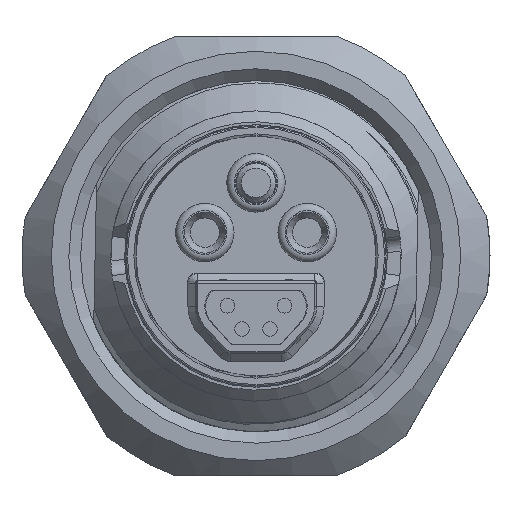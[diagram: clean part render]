
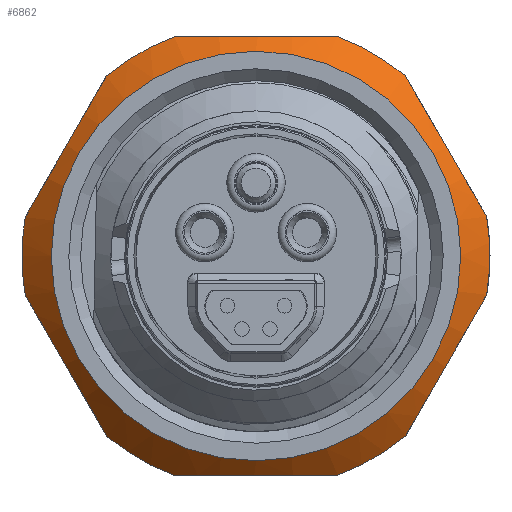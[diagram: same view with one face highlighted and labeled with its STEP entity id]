
A CAD part, front view. The second image highlights one B-rep face of the part: STEP entity #6862.
In plain terms, the highlighted conical face has half-angle 45 degrees and reference radius 15 mm.
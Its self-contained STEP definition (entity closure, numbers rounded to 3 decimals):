
#357=(
BOUNDED_CURVE()
B_SPLINE_CURVE(2,(#19568,#19569,#19570),.UNSPECIFIED.,.F.,.F.)
B_SPLINE_CURVE_WITH_KNOTS((3,3),(0.,1.131),.UNSPECIFIED.)
CURVE()
GEOMETRIC_REPRESENTATION_ITEM()
RATIONAL_B_SPLINE_CURVE((1.,1.067,1.))
REPRESENTATION_ITEM('')
);
#358=(
BOUNDED_CURVE()
B_SPLINE_CURVE(2,(#19608,#19609,#19610),.UNSPECIFIED.,.F.,.F.)
B_SPLINE_CURVE_WITH_KNOTS((3,3),(0.,1.131),.UNSPECIFIED.)
CURVE()
GEOMETRIC_REPRESENTATION_ITEM()
RATIONAL_B_SPLINE_CURVE((1.,1.067,1.))
REPRESENTATION_ITEM('')
);
#359=(
BOUNDED_CURVE()
B_SPLINE_CURVE(2,(#19650,#19651,#19652),.UNSPECIFIED.,.F.,.F.)
B_SPLINE_CURVE_WITH_KNOTS((3,3),(0.,1.131),.UNSPECIFIED.)
CURVE()
GEOMETRIC_REPRESENTATION_ITEM()
RATIONAL_B_SPLINE_CURVE((1.,1.067,1.))
REPRESENTATION_ITEM('')
);
#360=(
BOUNDED_CURVE()
B_SPLINE_CURVE(2,(#19798,#19799,#19800),.UNSPECIFIED.,.F.,.F.)
B_SPLINE_CURVE_WITH_KNOTS((3,3),(0.,1.131),.UNSPECIFIED.)
CURVE()
GEOMETRIC_REPRESENTATION_ITEM()
RATIONAL_B_SPLINE_CURVE((1.,1.067,1.))
REPRESENTATION_ITEM('')
);
#361=(
BOUNDED_CURVE()
B_SPLINE_CURVE(2,(#19808,#19809,#19810),.UNSPECIFIED.,.F.,.F.)
B_SPLINE_CURVE_WITH_KNOTS((3,3),(0.,1.131),.UNSPECIFIED.)
CURVE()
GEOMETRIC_REPRESENTATION_ITEM()
RATIONAL_B_SPLINE_CURVE((1.,1.067,1.))
REPRESENTATION_ITEM('')
);
#362=(
BOUNDED_CURVE()
B_SPLINE_CURVE(2,(#19824,#19825,#19826),.UNSPECIFIED.,.F.,.F.)
B_SPLINE_CURVE_WITH_KNOTS((3,3),(0.,1.131),.UNSPECIFIED.)
CURVE()
GEOMETRIC_REPRESENTATION_ITEM()
RATIONAL_B_SPLINE_CURVE((1.,1.067,1.))
REPRESENTATION_ITEM('')
);
#400=CONICAL_SURFACE('',#7401,15.,0.785);
#808=FACE_OUTER_BOUND('',#1192,.T.);
#1192=EDGE_LOOP('',(#5414,#5415,#5416,#5417,#5418,#5419,#5420,#5421,#5422,
#5423,#5424,#5425,#5426,#5427,#5428,#5429,#5430));
#1533=LINE('',#19823,#1928);
#1928=VECTOR('',#8580,15.);
#2306=CIRCLE('',#7324,14.);
#2307=CIRCLE('',#7325,14.);
#2339=CIRCLE('',#7387,16.);
#2340=CIRCLE('',#7388,16.);
#2341=CIRCLE('',#7391,16.);
#2342=CIRCLE('',#7394,16.);
#2343=CIRCLE('',#7396,16.);
#2344=CIRCLE('',#7398,16.);
#2345=CIRCLE('',#7400,16.);
#2846=VERTEX_POINT('',#19467);
#2847=VERTEX_POINT('',#19468);
#2871=VERTEX_POINT('',#19565);
#2872=VERTEX_POINT('',#19567);
#2879=VERTEX_POINT('',#19605);
#2880=VERTEX_POINT('',#19607);
#2888=VERTEX_POINT('',#19647);
#2889=VERTEX_POINT('',#19649);
#2909=VERTEX_POINT('',#19789);
#2910=VERTEX_POINT('',#19791);
#2911=VERTEX_POINT('',#19793);
#2912=VERTEX_POINT('',#19797);
#2913=VERTEX_POINT('',#19803);
#2914=VERTEX_POINT('',#19807);
#2915=VERTEX_POINT('',#19815);
#3682=EDGE_CURVE('',#2846,#2847,#2306,.T.);
#3683=EDGE_CURVE('',#2847,#2846,#2307,.T.);
#3715=EDGE_CURVE('',#2871,#2872,#357,.T.);
#3725=EDGE_CURVE('',#2879,#2880,#358,.T.);
#3736=EDGE_CURVE('',#2888,#2889,#359,.T.);
#3774=EDGE_CURVE('',#2909,#2910,#2339,.T.);
#3775=EDGE_CURVE('',#2910,#2911,#2340,.T.);
#3777=EDGE_CURVE('',#2911,#2912,#360,.T.);
#3779=EDGE_CURVE('',#2912,#2913,#2341,.T.);
#3781=EDGE_CURVE('',#2913,#2914,#361,.T.);
#3783=EDGE_CURVE('',#2914,#2879,#2342,.T.);
#3784=EDGE_CURVE('',#2872,#2915,#2343,.T.);
#3786=EDGE_CURVE('',#2880,#2888,#2344,.T.);
#3787=EDGE_CURVE('',#2889,#2871,#2345,.T.);
#3788=EDGE_CURVE('',#2910,#2847,#1533,.T.);
#3789=EDGE_CURVE('',#2915,#2909,#362,.T.);
#5414=ORIENTED_EDGE('',*,*,#3715,.F.);
#5415=ORIENTED_EDGE('',*,*,#3787,.F.);
#5416=ORIENTED_EDGE('',*,*,#3736,.F.);
#5417=ORIENTED_EDGE('',*,*,#3786,.F.);
#5418=ORIENTED_EDGE('',*,*,#3725,.F.);
#5419=ORIENTED_EDGE('',*,*,#3783,.F.);
#5420=ORIENTED_EDGE('',*,*,#3781,.F.);
#5421=ORIENTED_EDGE('',*,*,#3779,.F.);
#5422=ORIENTED_EDGE('',*,*,#3777,.F.);
#5423=ORIENTED_EDGE('',*,*,#3775,.F.);
#5424=ORIENTED_EDGE('',*,*,#3788,.T.);
#5425=ORIENTED_EDGE('',*,*,#3682,.F.);
#5426=ORIENTED_EDGE('',*,*,#3683,.F.);
#5427=ORIENTED_EDGE('',*,*,#3788,.F.);
#5428=ORIENTED_EDGE('',*,*,#3774,.F.);
#5429=ORIENTED_EDGE('',*,*,#3789,.F.);
#5430=ORIENTED_EDGE('',*,*,#3784,.F.);
#6862=ADVANCED_FACE('',(#808),#400,.T.);
#7324=AXIS2_PLACEMENT_3D('',#19469,#8387,#8388);
#7325=AXIS2_PLACEMENT_3D('',#19470,#8389,#8390);
#7387=AXIS2_PLACEMENT_3D('',#19792,#8545,#8546);
#7388=AXIS2_PLACEMENT_3D('',#19794,#8547,#8548);
#7391=AXIS2_PLACEMENT_3D('',#19804,#8555,#8556);
#7394=AXIS2_PLACEMENT_3D('',#19813,#8563,#8564);
#7396=AXIS2_PLACEMENT_3D('',#19816,#8567,#8568);
#7398=AXIS2_PLACEMENT_3D('',#19819,#8572,#8573);
#7400=AXIS2_PLACEMENT_3D('',#19821,#8576,#8577);
#7401=AXIS2_PLACEMENT_3D('',#19822,#8578,#8579);
#8387=DIRECTION('center_axis',(0.,-1.,0.));
#8388=DIRECTION('ref_axis',(1.,0.,0.001));
#8389=DIRECTION('center_axis',(0.,-1.,0.));
#8390=DIRECTION('ref_axis',(1.,0.,0.001));
#8545=DIRECTION('center_axis',(0.,1.,0.));
#8546=DIRECTION('ref_axis',(0.001,0.,-1.));
#8547=DIRECTION('center_axis',(0.,1.,0.));
#8548=DIRECTION('ref_axis',(0.001,0.,-1.));
#8555=DIRECTION('center_axis',(0.,1.,0.));
#8556=DIRECTION('ref_axis',(0.001,0.,-1.));
#8563=DIRECTION('center_axis',(0.,1.,0.));
#8564=DIRECTION('ref_axis',(0.001,0.,-1.));
#8567=DIRECTION('center_axis',(0.,1.,0.));
#8568=DIRECTION('ref_axis',(0.001,0.,-1.));
#8572=DIRECTION('center_axis',(0.,1.,0.));
#8573=DIRECTION('ref_axis',(0.001,0.,-1.));
#8576=DIRECTION('center_axis',(0.,1.,0.));
#8577=DIRECTION('ref_axis',(0.001,0.,-1.));
#8578=DIRECTION('center_axis',(0.,1.,0.));
#8579=DIRECTION('ref_axis',(1.,0.,0.001));
#8580=DIRECTION('',(0.707,-0.707,0.001));
#19467=CARTESIAN_POINT('',(-2.604,-6.851,0.018));
#19468=CARTESIAN_POINT('',(-30.604,-6.851,-0.018));
#19469=CARTESIAN_POINT('Origin',(-16.604,-6.851,0.));
#19470=CARTESIAN_POINT('Origin',(-16.604,-6.851,0.));
#19565=CARTESIAN_POINT('',(-11.018,-4.851,-14.993));
#19567=CARTESIAN_POINT('',(-22.153,-4.851,-15.007));
#19568=CARTESIAN_POINT('Ctrl Pts',(-11.018,-4.851,
-14.993));
#19569=CARTESIAN_POINT('Ctrl Pts',(-16.585,-6.788,-15.));
#19570=CARTESIAN_POINT('Ctrl Pts',(-22.153,-4.851,
-15.007));
#19605=CARTESIAN_POINT('',(-6.414,-4.851,12.335));
#19607=CARTESIAN_POINT('',(-0.834,-4.851,2.698));
#19608=CARTESIAN_POINT('Ctrl Pts',(-6.414,-4.851,
12.335));
#19609=CARTESIAN_POINT('Ctrl Pts',(-3.624,-6.788,
7.517));
#19610=CARTESIAN_POINT('Ctrl Pts',(-0.834,-4.851,
2.698));
#19647=CARTESIAN_POINT('',(-0.827,-4.851,-2.658));
#19649=CARTESIAN_POINT('',(-6.382,-4.851,-12.309));
#19650=CARTESIAN_POINT('Ctrl Pts',(-0.827,-4.851,
-2.658));
#19651=CARTESIAN_POINT('Ctrl Pts',(-3.605,-6.788,
-7.483));
#19652=CARTESIAN_POINT('Ctrl Pts',(-6.382,-4.851,
-12.309));
#19789=CARTESIAN_POINT('',(-32.375,-4.851,-2.698));
#19791=CARTESIAN_POINT('',(-32.604,-4.851,-0.02));
#19792=CARTESIAN_POINT('Origin',(-16.604,-4.851,0.));
#19793=CARTESIAN_POINT('',(-32.382,-4.851,2.658));
#19794=CARTESIAN_POINT('Origin',(-16.604,-4.851,0.));
#19797=CARTESIAN_POINT('',(-26.827,-4.851,12.309));
#19798=CARTESIAN_POINT('Ctrl Pts',(-32.382,-4.851,
2.658));
#19799=CARTESIAN_POINT('Ctrl Pts',(-29.604,-6.788,7.483));
#19800=CARTESIAN_POINT('Ctrl Pts',(-26.827,-4.851,
12.309));
#19803=CARTESIAN_POINT('',(-22.191,-4.851,14.993));
#19804=CARTESIAN_POINT('Origin',(-16.604,-4.851,0.));
#19807=CARTESIAN_POINT('',(-11.056,-4.851,15.007));
#19808=CARTESIAN_POINT('Ctrl Pts',(-22.191,-4.851,
14.993));
#19809=CARTESIAN_POINT('Ctrl Pts',(-16.624,-6.788,
15.));
#19810=CARTESIAN_POINT('Ctrl Pts',(-11.056,-4.851,
15.007));
#19813=CARTESIAN_POINT('Origin',(-16.604,-4.851,0.));
#19815=CARTESIAN_POINT('',(-26.795,-4.851,-12.335));
#19816=CARTESIAN_POINT('Origin',(-16.604,-4.851,0.));
#19819=CARTESIAN_POINT('Origin',(-16.604,-4.851,0.));
#19821=CARTESIAN_POINT('Origin',(-16.604,-4.851,0.));
#19822=CARTESIAN_POINT('Origin',(-16.604,-5.851,0.));
#19823=CARTESIAN_POINT('',(-31.604,-5.851,-0.019));
#19824=CARTESIAN_POINT('Ctrl Pts',(-26.795,-4.851,
-12.335));
#19825=CARTESIAN_POINT('Ctrl Pts',(-29.585,-6.788,
-7.517));
#19826=CARTESIAN_POINT('Ctrl Pts',(-32.375,-4.851,
-2.698));
